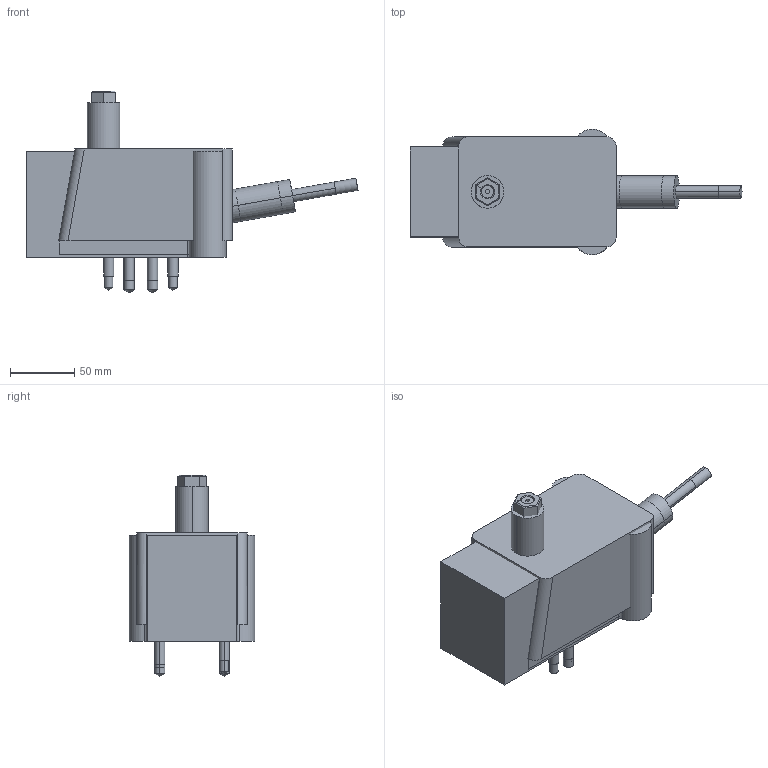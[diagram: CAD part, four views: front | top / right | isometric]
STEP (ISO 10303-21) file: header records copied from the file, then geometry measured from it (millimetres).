
FILE_DESCRIPTION (( 'STEP AP214' ), '1' );
FILE_NAME ('EZ-10-SG.STEP', '2022-06-24T13:43:06', ( '' ), ( '' ), 'SwSTEP 2.0', 'SolidWorks 2020', '' );
FILE_SCHEMA (( 'AUTOMOTIVE_DESIGN' ));
Length unit declared in the file: inch
Products named in the file (1): EZ-10-SG
Bounding box: 258.45 x 97.7 x 156.95 mm (x, y, z)
Volume: 2484552 mm3; surface area: 227701.2 mm2
Topology: 16 solids, 16 shells, 339 faces, 766 edges, 474 vertices
Faces by surface type: plane 135, cylinder 118, cone 68, torus 12, sphere 4, bspline 2
Entity records: 15762 total; most frequent: CARTESIAN_POINT 7897, DIRECTION 1676, ORIENTED_EDGE 1508, EDGE_CURVE 754, AXIS2_PLACEMENT_3D 636, VERTEX_POINT 474, VECTOR 404, LINE 404
